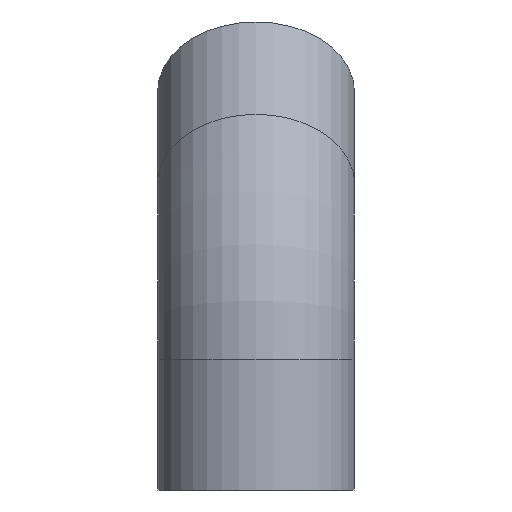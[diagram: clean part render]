
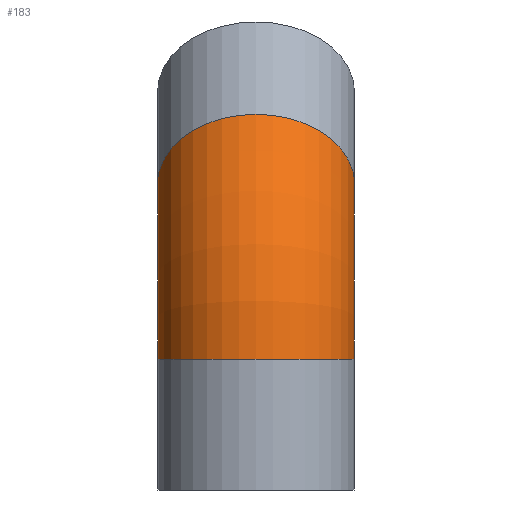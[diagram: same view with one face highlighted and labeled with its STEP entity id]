
A CAD part, left-side view. The second image highlights one B-rep face of the part: STEP entity #183.
In plain terms, the highlighted toroidal (fillet/blend) face has major radius 76 mm and minor radius 30.15 mm.
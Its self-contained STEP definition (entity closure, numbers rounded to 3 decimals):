
#152=CARTESIAN_POINT('',(43.579,0.,72.441));
#153=VERTEX_POINT('',#152);
#154=CARTESIAN_POINT('',(22.26,0.0,93.76));
#155=DIRECTION('',(-0.707,0.0,-0.707));
#156=DIRECTION('',(-0.707,0.0,0.707));
#157=AXIS2_PLACEMENT_3D('',#154,#155,#156);
#158=CIRCLE('',#157,30.15);
#159=EDGE_CURVE('',#153,#153,#158,.T.);
#164=CARTESIAN_POINT('',(76.0,0.0,40.02));
#165=DIRECTION('',(0.0,1.0,0.0));
#166=DIRECTION('',(0.0,0.0,1.0));
#167=AXIS2_PLACEMENT_3D('',#164,#165,#166);
#168=TOROIDAL_SURFACE('',#167,76.0,30.15);
#169=ORIENTED_EDGE('',*,*,#159,.T.);
#170=EDGE_LOOP('',(#169));
#171=FACE_OUTER_BOUND('',#170,.T.);
#172=CARTESIAN_POINT('',(30.15,0.,40.02));
#173=VERTEX_POINT('',#172);
#174=CARTESIAN_POINT('',(0.,0.0,40.02));
#175=DIRECTION('',(0.0,0.0,-1.0));
#176=DIRECTION('',(-1.0,0.0,0.0));
#177=AXIS2_PLACEMENT_3D('',#174,#175,#176);
#178=CIRCLE('',#177,30.15);
#179=EDGE_CURVE('',#173,#173,#178,.T.);
#180=ORIENTED_EDGE('',*,*,#179,.F.);
#181=EDGE_LOOP('',(#180));
#182=FACE_BOUND('',#181,.T.);
#183=ADVANCED_FACE('',(#171,#182),#168,.T.);
